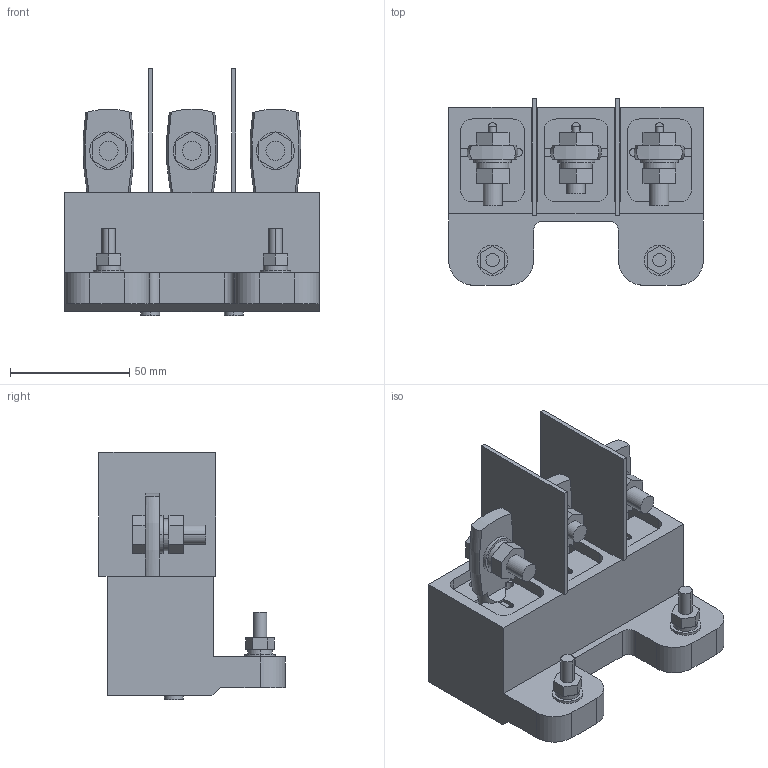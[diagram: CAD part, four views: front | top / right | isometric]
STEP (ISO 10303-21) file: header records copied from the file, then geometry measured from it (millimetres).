
FILE_DESCRIPTION (( 'STEP AP214' ), '1' );
FILE_NAME ('Âòû÷íîå îñíîâàíèå çàäíåå TEM5E-TDM-250.STEP', '2025-12-05T13:30:46', ( '' ), ( '' ), 'SwSTEP 2.0', 'SolidWorks 2024', '' );
FILE_SCHEMA (( 'AUTOMOTIVE_DESIGN' ));
Length unit declared in the file: millimetre
Products named in the file (5): Втычное основание заднее TEM5E-TDM-250; boj15BC88EFaxkr_2.stp; boj15BC88EFaxkr_1.stp; Втычное основание заднее TEM5E-TDM-250.stp; boj15BC88EFaxkr_3.stp
Assembly tree (4 placements, depth 3):
  Втычное основание заднее TEM5E-TDM-250
    Втычное основание заднее TEM5E-TDM-250.stp
      boj15BC88EFaxkr_1.stp
      boj15BC88EFaxkr_2.stp
      boj15BC88EFaxkr_3.stp
Bounding box: 106.8 x 78.1 x 103.6 mm (x, y, z)
Volume: 209722 mm3; surface area: 77637.6 mm2
Topology: 3 solids, 3 shells, 447 faces, 1152 edges, 764 vertices
Faces by surface type: plane 299, cylinder 112, bspline 24, torus 12
Entity records: 14681 total; most frequent: CARTESIAN_POINT 3583, ORIENTED_EDGE 2304, DIRECTION 2250, EDGE_CURVE 1152, VECTOR 772, LINE 772, VERTEX_POINT 764, AXIS2_PLACEMENT_3D 739
